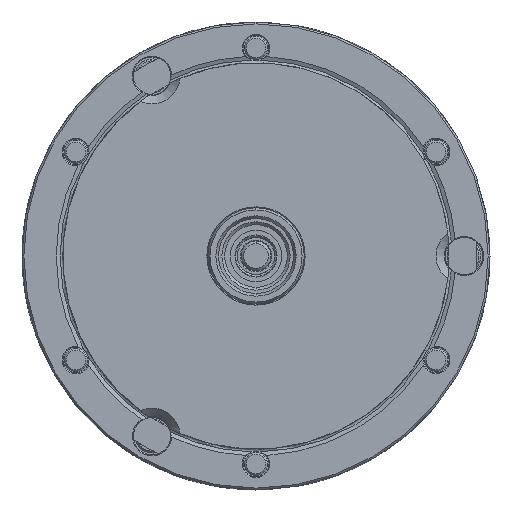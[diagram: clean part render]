
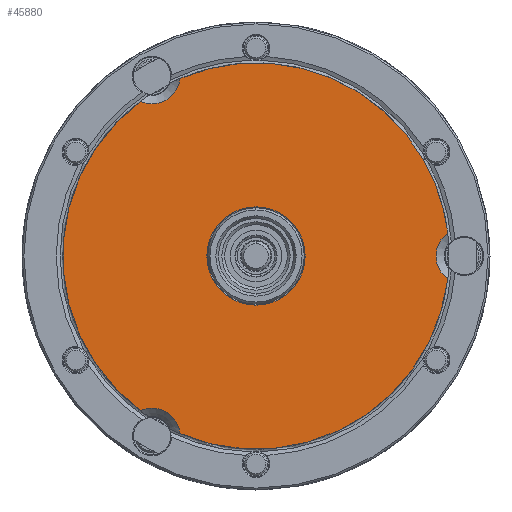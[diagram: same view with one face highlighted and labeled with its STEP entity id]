
A CAD part, left-side view. The second image highlights one B-rep face of the part: STEP entity #45880.
In plain terms, the highlighted planar face has unit normal (-1, 0, 0).
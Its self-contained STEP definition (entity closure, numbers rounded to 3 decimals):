
#2 = CIRCLE ( 'NONE', #14764, 41.275 ) ;
#788 = EDGE_CURVE ( 'NONE', #37934, #3852, #6889, .T. ) ;
#1495 = AXIS2_PLACEMENT_3D ( 'NONE', #2136, #21114, #41118 ) ;
#1864 = VERTEX_POINT ( 'NONE', #10899 ) ;
#1874 = DIRECTION ( 'NONE',  ( 0., 0.866, 0.5 ) ) ;
#2136 = CARTESIAN_POINT ( 'NONE',  ( -52.5, 0., 0. ) ) ;
#2428 = ORIENTED_EDGE ( 'NONE', *, *, #20037, .F. ) ;
#2706 = CARTESIAN_POINT ( 'NONE',  ( -52.5, -40.983, -4.897 ) ) ;
#3136 = EDGE_LOOP ( 'NONE', ( #11262, #2428 ) ) ;
#3852 = VERTEX_POINT ( 'NONE', #33335 ) ;
#5893 = CARTESIAN_POINT ( 'NONE',  ( -52.5, 22.225, 38.495 ) ) ;
#6084 = DIRECTION ( 'NONE',  ( 0., 0., -1. ) ) ;
#6154 = AXIS2_PLACEMENT_3D ( 'NONE', #49398, #42215, #46058 ) ;
#6425 = EDGE_LOOP ( 'NONE', ( #11909, #7677, #34089, #47729, #50371, #34472, #7154 ) ) ;
#6742 = DIRECTION ( 'NONE',  ( -1., 0., 0. ) ) ;
#6889 = CIRCLE ( 'NONE', #19174, 41.275 ) ;
#7021 = AXIS2_PLACEMENT_3D ( 'NONE', #5893, #44879, #25903 ) ;
#7154 = ORIENTED_EDGE ( 'NONE', *, *, #41477, .F. ) ;
#7677 = ORIENTED_EDGE ( 'NONE', *, *, #29656, .F. ) ;
#8254 = DIRECTION ( 'NONE',  ( 1., 0., 0. ) ) ;
#9210 = AXIS2_PLACEMENT_3D ( 'NONE', #49719, #45073, #6084 ) ;
#10899 = CARTESIAN_POINT ( 'NONE',  ( -52.5, 24.733, -33.044 ) ) ;
#11262 = ORIENTED_EDGE ( 'NONE', *, *, #29060, .F. ) ;
#11909 = ORIENTED_EDGE ( 'NONE', *, *, #22074, .T. ) ;
#13154 = CARTESIAN_POINT ( 'NONE',  ( -52.5, -9.093, 5.25 ) ) ;
#13677 = CARTESIAN_POINT ( 'NONE',  ( -52.5, 22.225, -38.495 ) ) ;
#14764 = AXIS2_PLACEMENT_3D ( 'NONE', #48207, #28678, #24359 ) ;
#14948 = EDGE_CURVE ( 'NONE', #28940, #45399, #16110, .T. ) ;
#15379 = AXIS2_PLACEMENT_3D ( 'NONE', #16669, #48213, #44110 ) ;
#15978 = AXIS2_PLACEMENT_3D ( 'NONE', #30575, #43159, #23641 ) ;
#16110 = CIRCLE ( 'NONE', #15379, 41.275 ) ;
#16669 = CARTESIAN_POINT ( 'NONE',  ( -52.5, 0., 0. ) ) ;
#17059 = CIRCLE ( 'NONE', #1495, 10.5 ) ;
#17112 = AXIS2_PLACEMENT_3D ( 'NONE', #20050, #8254, #27737 ) ;
#17432 = CARTESIAN_POINT ( 'NONE',  ( -52.5, 9.093, -5.25 ) ) ;
#19174 = AXIS2_PLACEMENT_3D ( 'NONE', #38294, #6742, #42654 ) ;
#19548 = PLANE ( 'NONE',  #17112 ) ;
#20037 = EDGE_CURVE ( 'NONE', #30838, #20202, #17059, .T. ) ;
#20050 = CARTESIAN_POINT ( 'NONE',  ( -52.5, 20.637, 35.745 ) ) ;
#20202 = VERTEX_POINT ( 'NONE', #13154 ) ;
#21114 = DIRECTION ( 'NONE',  ( -1., 0., 0. ) ) ;
#21248 = CARTESIAN_POINT ( 'NONE',  ( -52.5, 24.733, 33.044 ) ) ;
#22074 = EDGE_CURVE ( 'NONE', #47187, #1864, #2, .T. ) ;
#23069 = CARTESIAN_POINT ( 'NONE',  ( -52.5, 16.251, 37.941 ) ) ;
#23641 = DIRECTION ( 'NONE',  ( 0., -0.866, 0.5 ) ) ;
#24359 = DIRECTION ( 'NONE',  ( 0., -0.866, 0.5 ) ) ;
#25903 = DIRECTION ( 'NONE',  ( 0., -0.866, 0.5 ) ) ;
#27737 = DIRECTION ( 'NONE',  ( 0., 0.866, -0.5 ) ) ;
#28273 = AXIS2_PLACEMENT_3D ( 'NONE', #13677, #41122, #1874 ) ;
#28678 = DIRECTION ( 'NONE',  ( -1., 0., 0. ) ) ;
#28940 = VERTEX_POINT ( 'NONE', #33909 ) ;
#29060 = EDGE_CURVE ( 'NONE', #20202, #30838, #33963, .T. ) ;
#29656 = EDGE_CURVE ( 'NONE', #28940, #1864, #45504, .T. ) ;
#30575 = CARTESIAN_POINT ( 'NONE',  ( -52.5, 0., 0. ) ) ;
#30838 = VERTEX_POINT ( 'NONE', #17432 ) ;
#30845 = FACE_OUTER_BOUND ( 'NONE', #6425, .T. ) ;
#33335 = CARTESIAN_POINT ( 'NONE',  ( -52.5, -35.745, 20.637 ) ) ;
#33909 = CARTESIAN_POINT ( 'NONE',  ( -52.5, 16.251, -37.941 ) ) ;
#33963 = CIRCLE ( 'NONE', #15978, 10.5 ) ;
#34089 = ORIENTED_EDGE ( 'NONE', *, *, #14948, .T. ) ;
#34472 = ORIENTED_EDGE ( 'NONE', *, *, #49485, .T. ) ;
#35688 = CARTESIAN_POINT ( 'NONE',  ( -52.5, -40.983, 4.897 ) ) ;
#36498 = EDGE_CURVE ( 'NONE', #37934, #45399, #44437, .T. ) ;
#37934 = VERTEX_POINT ( 'NONE', #35688 ) ;
#38294 = CARTESIAN_POINT ( 'NONE',  ( -52.5, 0., 0. ) ) ;
#38300 = VERTEX_POINT ( 'NONE', #23069 ) ;
#41118 = DIRECTION ( 'NONE',  ( 0., -0.866, 0.5 ) ) ;
#41122 = DIRECTION ( 'NONE',  ( -1., 0., 0. ) ) ;
#41477 = EDGE_CURVE ( 'NONE', #47187, #38300, #47968, .T. ) ;
#42215 = DIRECTION ( 'NONE',  ( -1., 0., 0. ) ) ;
#42654 = DIRECTION ( 'NONE',  ( 0., -0.866, 0.5 ) ) ;
#42657 = FACE_BOUND ( 'NONE', #3136, .T. ) ;
#43159 = DIRECTION ( 'NONE',  ( -1., 0., 0. ) ) ;
#44110 = DIRECTION ( 'NONE',  ( 0., -0.866, 0.5 ) ) ;
#44437 = CIRCLE ( 'NONE', #9210, 6. ) ;
#44879 = DIRECTION ( 'NONE',  ( -1., 0., 0. ) ) ;
#45073 = DIRECTION ( 'NONE',  ( -1., 0., 0. ) ) ;
#45399 = VERTEX_POINT ( 'NONE', #2706 ) ;
#45504 = CIRCLE ( 'NONE', #28273, 6. ) ;
#45880 = ADVANCED_FACE ( 'NONE', ( #42657, #30845 ), #19548, .F. ) ;
#46058 = DIRECTION ( 'NONE',  ( 0., -0.866, 0.5 ) ) ;
#47187 = VERTEX_POINT ( 'NONE', #21248 ) ;
#47729 = ORIENTED_EDGE ( 'NONE', *, *, #36498, .F. ) ;
#47968 = CIRCLE ( 'NONE', #7021, 6. ) ;
#48207 = CARTESIAN_POINT ( 'NONE',  ( -52.5, 0., 0. ) ) ;
#48213 = DIRECTION ( 'NONE',  ( -1., 0., 0. ) ) ;
#48800 = CIRCLE ( 'NONE', #6154, 41.275 ) ;
#49398 = CARTESIAN_POINT ( 'NONE',  ( -52.5, 0., 0. ) ) ;
#49485 = EDGE_CURVE ( 'NONE', #3852, #38300, #48800, .T. ) ;
#49719 = CARTESIAN_POINT ( 'NONE',  ( -52.5, -44.45, 0. ) ) ;
#50371 = ORIENTED_EDGE ( 'NONE', *, *, #788, .T. ) ;
